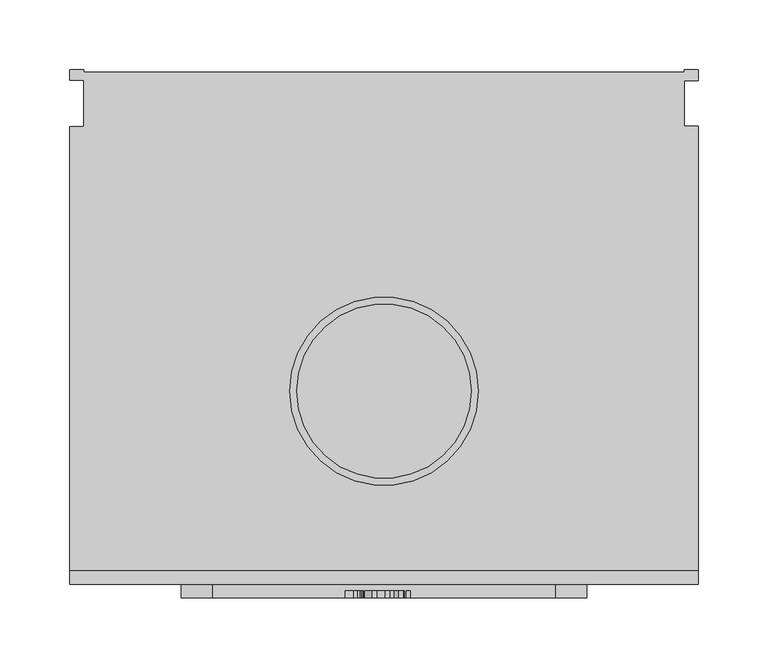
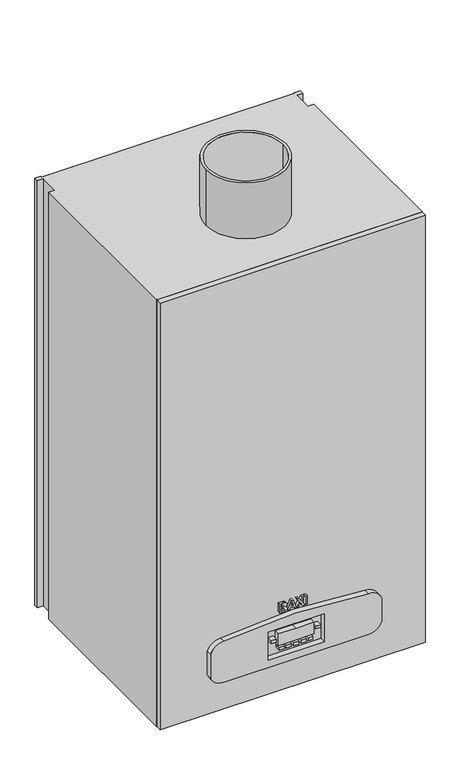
"""IFC4 building model written with IfcOpenShell, lengths in millimetres: proxy geometry, BAXI_ГазовыйКотел_Luna_Duo_tec_MP_1.35_1.50_1.60_1.70 : BAXI_Газовый котел_Luna_Duo-tec_MP_1.35."""

from ifc_helpers import new_model, si_unit, point, frame, frame_2d, origin, origin_with_axes, place, context, project, spatial, polyline, circle_curve, trimmed, segment, composite_curve, outline, extrude, source, transform, mapped, element, save


def mechanical_equipment_6b7b6108(model_context):
    return source(origin(), model_context, "Body", "SweptSolid", [
        extrude(outline(composite_curve([segment(trimmed(circle_curve(frame_2d((0.0, -229.0)), 67.5), [point((-67.5, -229.0))], [point((67.5, -229.0))], False, "CARTESIAN"), True, "CONTINUOUS"), segment(trimmed(circle_curve(frame_2d((0.0, -229.0)), 67.5), [point((67.5, -229.0))], [point((-67.5, -229.0))], False, "CARTESIAN"), True, "CONTINUOUS")], self_intersect=False), holes=[composite_curve([segment(trimmed(circle_curve(frame_2d((0.0, -229.0)), 62.5), [point((-62.5, -229.0))], [point((62.5, -229.0))], True, "CARTESIAN"), True, "CONTINUOUS"), segment(trimmed(circle_curve(frame_2d((0.0, -229.0)), 62.5), [point((62.5, -229.0))], [point((-62.5, -229.0))], True, "CARTESIAN"), True, "CONTINUOUS")], self_intersect=False)]), frame((0.0, 0.0, 766.0), z_axis=(0.0, 0.0, 1.0), x_axis=(1.0, 0.0, 0.0)), (0.0, 0.0, 1.0), 100.0),
        extrude(outline(composite_curve([segment(trimmed(circle_curve(frame_2d((130.5, -95.0)), 12.5), [point((118.0, -95.0))], [point((143.0, -95.0))], False, "CARTESIAN"), True, "CONTINUOUS"), segment(trimmed(circle_curve(frame_2d((130.5, -95.0)), 12.5), [point((143.0, -95.0))], [point((118.0, -95.0))], False, "CARTESIAN"), True, "CONTINUOUS")], self_intersect=False)), origin_with_axes(), (0.0, 0.0, 1.0), 27.0),
        extrude(outline(composite_curve([segment(trimmed(circle_curve(frame_2d((30.5, -95.0)), 12.5), [point((18.0, -95.0))], [point((43.0, -95.0))], False, "CARTESIAN"), True, "CONTINUOUS"), segment(trimmed(circle_curve(frame_2d((30.5, -95.0)), 12.5), [point((43.0, -95.0))], [point((18.0, -95.0))], False, "CARTESIAN"), True, "CONTINUOUS")], self_intersect=False)), origin_with_axes(), (0.0, 0.0, 1.0), 27.0),
        extrude(outline(composite_curve([segment(trimmed(circle_curve(frame_2d((-69.5, -95.0)), 10.0), [point((-79.5, -95.0))], [point((-59.5, -95.0))], False, "CARTESIAN"), True, "CONTINUOUS"), segment(trimmed(circle_curve(frame_2d((-69.5, -95.0)), 10.0), [point((-59.5, -95.0))], [point((-79.5, -95.0))], False, "CARTESIAN"), True, "CONTINUOUS")], self_intersect=False)), origin_with_axes(), (0.0, 0.0, 1.0), 27.0),
        extrude(outline(composite_curve([segment(trimmed(circle_curve(frame_2d((-148.5, -67.0)), 10.5), [point((-159.0, -67.0))], [point((-138.0, -67.0))], False, "CARTESIAN"), True, "CONTINUOUS"), segment(trimmed(circle_curve(frame_2d((-148.5, -67.0)), 10.5), [point((-138.0, -67.0))], [point((-159.0, -67.0))], False, "CARTESIAN"), True, "CONTINUOUS")], self_intersect=False)), origin_with_axes(), (0.0, 0.0, 1.0), 27.0),
        extrude(outline(polyline([(215.0, -0.5), (215.0, 1.3247101), (225.0, 1.3247101), (225.0, -6.656828), (215.0, -6.656828), (215.0, -38.999666), (225.0, -38.999666), (225.0, -357.5), (-225.0, -357.5), (-225.0, -39.3721844), (-215.0, -39.3721844), (-215.0, -6.0), (-225.0, -6.0), (-225.0, 1.3247101), (-215.0, 1.3247101), (-215.0, -0.5), (215.0, -0.5)])), origin_with_axes(), (0.0, 0.0, 1.0), 766.0),
        extrude(outline(composite_curve([segment(trimmed(circle_curve(frame_2d((104.8072413, -122.9523663)), 23.8820796), [point((128.6893209, -122.9523663))], [point((113.3983832, -145.2356786))], False, "CARTESIAN"), True, "CONTINUOUS"), segment(polyline([(113.3983832, -145.2356786), (70.7433267, -145.2356786)]), True, "CONTINUOUS"), segment(trimmed(circle_curve(frame_2d((79.3344686, -122.9523663)), 23.8820796), [point((70.7433267, -145.2356786))], [point((55.452389, -122.9523663))], False, "CARTESIAN"), True, "CONTINUOUS"), segment(trimmed(circle_curve(frame_2d((1446.9842906, 0.0)), 1396.9532267), [point((55.452389, -122.9523663))], [point((55.452389, 122.9523663))], False, "CARTESIAN"), True, "CONTINUOUS"), segment(trimmed(circle_curve(frame_2d((79.3344686, 122.9523663)), 23.8820796), [point((55.452389, 122.9523663))], [point((70.7433267, 145.2356786))], False, "CARTESIAN"), True, "CONTINUOUS"), segment(polyline([(70.7433267, 145.2356786), (113.3983832, 145.2356786)]), True, "CONTINUOUS"), segment(trimmed(circle_curve(frame_2d((104.8072413, 122.9523663)), 23.8820796), [point((113.3983832, 145.2356786))], [point((128.6893209, 122.9523663))], False, "CARTESIAN"), True, "CONTINUOUS"), segment(trimmed(circle_curve(frame_2d((-729.6850121, 0.0)), 867.1353873), [point((128.6893209, 122.9523663))], [point((128.6893209, -122.9523663))], False, "CARTESIAN"), True, "CONTINUOUS")], self_intersect=False), holes=[composite_curve([segment(polyline([(118.6255043, 47.6543882), (68.5914458, 47.6543882)]), True, "CONTINUOUS"), segment(trimmed(circle_curve(frame_2d((837.1487337, -0.0067979)), 770.0336963), [point((68.5914458, 47.6543882))], [point((68.5900202, -47.6449894))], True, "CARTESIAN"), True, "CONTINUOUS"), segment(polyline([(68.5900202, -47.6449894), (118.6267876, -47.6449894)]), True, "CONTINUOUS"), segment(trimmed(circle_curve(frame_2d((-371.9337244, -0.0019062)), 492.8686227), [point((118.6267876, -47.6449894))], [point((118.6255043, 47.6543882))], True, "CARTESIAN"), True, "CONTINUOUS")], self_intersect=False)]), frame((0.0, -377.0, 0.0), z_axis=(0.0, 1.0, 0.0), x_axis=(0.0, 0.0, 1.0)), (0.0, 0.0, 1.0), 12.4409704),
        extrude(outline(polyline([(109.7310849, -30.1449894), (88.5237303, -30.1449894), (88.5237303, 0.0), (88.5237303, 30.1543882), (109.7310849, 30.1543882), (109.7310849, 0.0), (109.7310849, -30.1449894)])), frame((0.0, -377.0, 0.0), z_axis=(0.0, 1.0, 0.0), x_axis=(0.0, 0.0, 1.0)), (0.0, 0.0, 1.0), 12.4409704),
        extrude(outline(polyline([(-8.4794751, -377.0), (-16.8504852, -377.0), (-16.8504852, -364.5590296), (-8.4794751, -364.5590296), (-8.4794751, -377.0)])), frame((0.0, 0.0, 79.6360588), z_axis=(0.0, 0.0, 1.0), x_axis=(1.0, 0.0, 0.0)), (0.0, 0.0, 1.0), 5.0),
        extrude(outline(polyline([(4.1855051, -377.0), (-4.1855051, -377.0), (-4.1855051, -364.5590296), (4.1855051, -364.5590296), (4.1855051, -377.0)])), frame((0.0, 0.0, 79.6360588), z_axis=(0.0, 0.0, 1.0), x_axis=(1.0, 0.0, 0.0)), (0.0, 0.0, 1.0), 5.0),
        extrude(outline(polyline([(16.8504852, -377.0), (8.4794751, -377.0), (8.4794751, -364.5590296), (16.8504852, -364.5590296), (16.8504852, -377.0)])), frame((0.0, 0.0, 79.6360588), z_axis=(0.0, 0.0, 1.0), x_axis=(1.0, 0.0, 0.0)), (0.0, 0.0, 1.0), 5.0),
        extrude(outline(polyline([(28.5176661, -377.0), (20.146656, -377.0), (20.146656, -364.5590296), (28.5176661, -364.5590296), (28.5176661, -377.0)])), frame((0.0, 0.0, 79.6360588), z_axis=(0.0, 0.0, 1.0), x_axis=(1.0, 0.0, 0.0)), (0.0, 0.0, 1.0), 5.0),
        extrude(outline(polyline([(-20.3206056, -377.0), (-28.6916158, -377.0), (-28.6916158, -364.5590296), (-20.3206056, -364.5590296), (-20.3206056, -377.0)])), frame((0.0, 0.0, 79.6360588), z_axis=(0.0, 0.0, 1.0), x_axis=(1.0, 0.0, 0.0)), (0.0, 0.0, 1.0), 5.0),
        extrude(outline(polyline([(41.7216124, -377.0), (33.3506023, -377.0), (33.3506023, -364.5590296), (41.7216124, -364.5590296), (41.7216124, -377.0)])), frame((0.0, 0.0, 96.4118459), z_axis=(0.0, 0.0, 1.0), x_axis=(1.0, 0.0, 0.0)), (0.0, 0.0, 1.0), 5.0),
        extrude(outline(polyline([(-33.5245519, -377.0), (-41.8955621, -377.0), (-41.8955621, -364.5590296), (-33.5245519, -364.5590296), (-33.5245519, -377.0)])), frame((0.0, 0.0, 96.4118459), z_axis=(0.0, 0.0, 1.0), x_axis=(1.0, 0.0, 0.0)), (0.0, 0.0, 1.0), 5.0),
        extrude(outline(polyline([(161.6564179, -27.7825455), (146.3525269, -27.7825455), (146.3525269, -22.5521978), (146.4550083, -18.8097284), (147.1780716, -16.7278375), (148.7456577, -15.3955791), (150.7668189, -14.9078435), (153.0631617, -15.5872573), (154.4447629, -17.5306086), (155.799795, -15.9687159), (157.7811023, -15.3936813), (159.5821182, -15.8757235), (160.8688293, -17.080829), (161.5045936, -18.7205316), (161.6564179, -21.5008144), (161.6564179, -27.7825455)]), holes=[polyline([(158.98431, -24.8675186), (158.98431, -22.9165762), (155.6327882, -20.1761473), (155.5834453, -22.6432924), (155.5834453, -24.8675186), (158.98431, -24.8675186)]), polyline([(152.9113374, -24.8675186), (152.9113374, -22.1764326), (149.1157295, -19.5005291), (149.0246349, -21.785485), (149.0246349, -24.8675186), (152.9113374, -24.8675186)])]), frame((0.0, -377.0, 0.0), z_axis=(0.0, 1.0, 0.0), x_axis=(0.0, 0.0, 1.0)), (0.0, 0.0, 1.0), 5.0),
        extrude(outline(polyline([(146.3525269, 0.3960475), (161.6564179, -5.2442258), (161.6564179, -8.3490331), (146.3525269, -13.9361679), (146.3525269, -10.8313606), (149.7533916, -9.647131), (149.7533916, -3.8664202), (146.3525269, -2.6670081), (146.3525269, 0.3960475)]), holes=[polyline([(152.4254996, -4.8001397), (152.4254996, -8.7134114), (158.0126344, -6.7700602), (152.4254996, -4.8001397)])]), frame((0.0, -377.0, 0.0), z_axis=(0.0, 1.0, 0.0), x_axis=(0.0, 0.0, 1.0)), (0.0, 0.0, 1.0), 5.0),
        extrude(outline(polyline([(146.3525269, 0.5175069), (146.3525269, 3.9259628), (151.7574726, 7.4406957), (146.3525269, 10.9554286), (146.3525269, 14.3638845), (154.376442, 9.1449237), (161.6564179, 13.8780467), (161.6564179, 10.4695908), (156.9992071, 7.4406957), (161.6564179, 4.4118006), (161.6564179, 1.0033447), (154.376442, 5.7364678), (146.3525269, 0.5175069)])), frame((0.0, -377.0, 0.0), z_axis=(0.0, 1.0, 0.0), x_axis=(0.0, 0.0, 1.0)), (0.0, 0.0, 1.0), 5.0),
        extrude(outline(polyline([(15.9428574, -372.0), (18.8578842, -372.0), (18.8578842, -377.0), (15.9428574, -377.0), (15.9428574, -372.0)])), frame((0.0, 0.0, 146.3525269), z_axis=(0.0, 0.0, 1.0), x_axis=(1.0, 0.0, 0.0)), (0.0, 0.0, 1.0), 15.303891),
        extrude(outline(composite_curve([segment(polyline([(225.0, -357.0), (225.0, -367.5071393)]), True, "CONTINUOUS"), segment(trimmed(circle_curve(frame_2d((0.0, 8312.6346078)), 8683.0573965), [point((225.0, -367.5071393))], [point((-225.0, -367.5071393))], False, "CARTESIAN"), True, "CONTINUOUS"), segment(polyline([(-225.0, -367.5071393), (-225.0, -357.0), (225.0, -357.0)]), True, "CONTINUOUS")], self_intersect=False)), origin_with_axes(), (0.0, 0.0, 1.0), 766.0),
    ])


if __name__ == "__main__":
    model = new_model("IFC4")
    model_context = context("Model", 3, world=origin())
    ifc_project = project(units=[si_unit("LENGTHUNIT", "METRE", prefix="MILLI")], contexts=[model_context])
    site = spatial("IfcSite", under=ifc_project)
    building = spatial("IfcBuilding", under=site)
    placement = place(None, origin())
    mechanical_equipment_shape = mechanical_equipment_6b7b6108(model_context)
    element("IfcBuildingElementProxy", 1, Name="BAXI_ГазовыйКотел_Luna_Duo_tec_MP_1.35_1.50_1.60_1.70 : BAXI_Газовый котел_Luna_Duo-tec_MP_1.35", ObjectType="BAXI_ГазовыйКотел_Luna_Duo_tec_MP_1.35_1.50_1.60_1.70 : BAXI_Газовый котел_Luna_Duo-tec_MP_1.35", at=placement, inside=building, context=model_context, shape_type="MappedRepresentation", body=[
        mapped(mechanical_equipment_shape, transform((0.0, 0.0, 0.0), x_axis=(1.0, 0.0, 0.0), y_axis=(0.0, 1.0, 0.0), z_axis=(0.0, 0.0, 1.0))),
    ])
    save(model, "model.ifc")
